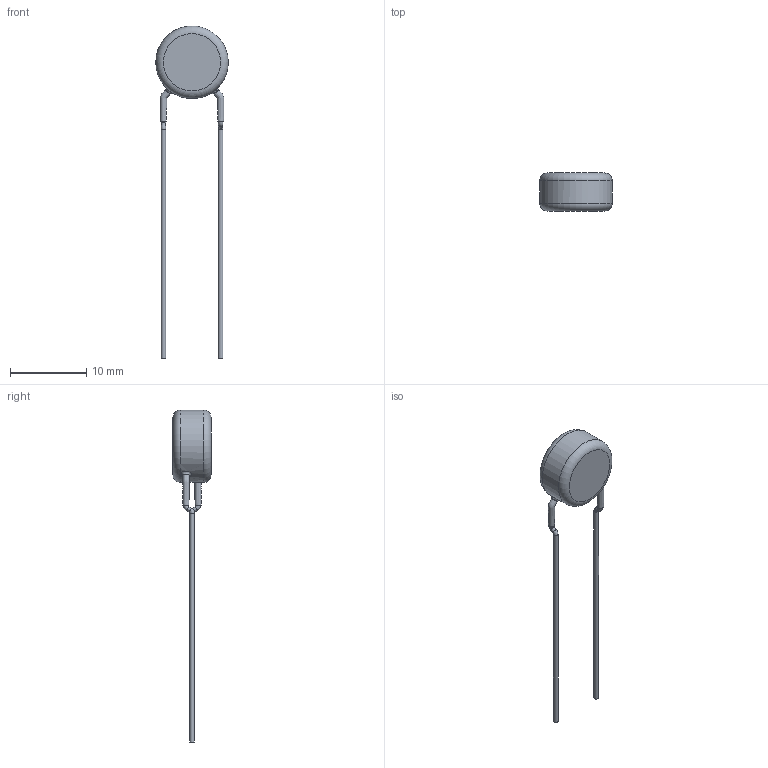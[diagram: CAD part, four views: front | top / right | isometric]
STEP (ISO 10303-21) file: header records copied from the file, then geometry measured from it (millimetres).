
FILE_DESCRIPTION(/* description */ (''),/* implementation_level */ '2;1');
FILE_NAME(/* name */ 'I:\Marketing\M6t1\3D-Models\Zchng-Werk-3\Upload for homepage\BCC\AY2\Inline Dia 0,6 LS 7,5\AY2222K35Y5US63V7.stp',/* time_stamp */ '2020-11-06T08:56:15+01:00',/* author */ ('truediger'),/* organization */ (''),/* preprocessor_version */ 'ST-DEVELOPER v18',/* originating_system */ 'Autodesk Inventor 2020',/* authorisation */ '');
FILE_SCHEMA (('AUTOMOTIVE_DESIGN { 1 0 10303 214 3 1 1 }'));
Length unit declared in the file: millimetre
Products named in the file (1): Bauteil1
Bounding box: 9.5 x 5 x 43.5 mm (x, y, z)
Volume: 364.9 mm3; surface area: 404.9 mm2
Topology: 1 solids, 1 shells, 29 faces, 73 edges, 48 vertices
Faces by surface type: cylinder 9, bspline 8, torus 6, plane 6
Full cylindrical faces by diameter (mm): 0.6 x4, 9.5 x1
Entity records: 2650 total; most frequent: CARTESIAN_POINT 1909, ORIENTED_EDGE 146, DIRECTION 141, EDGE_CURVE 73, AXIS2_PLACEMENT_3D 68, VERTEX_POINT 48, CIRCLE 44, EDGE_LOOP 31
